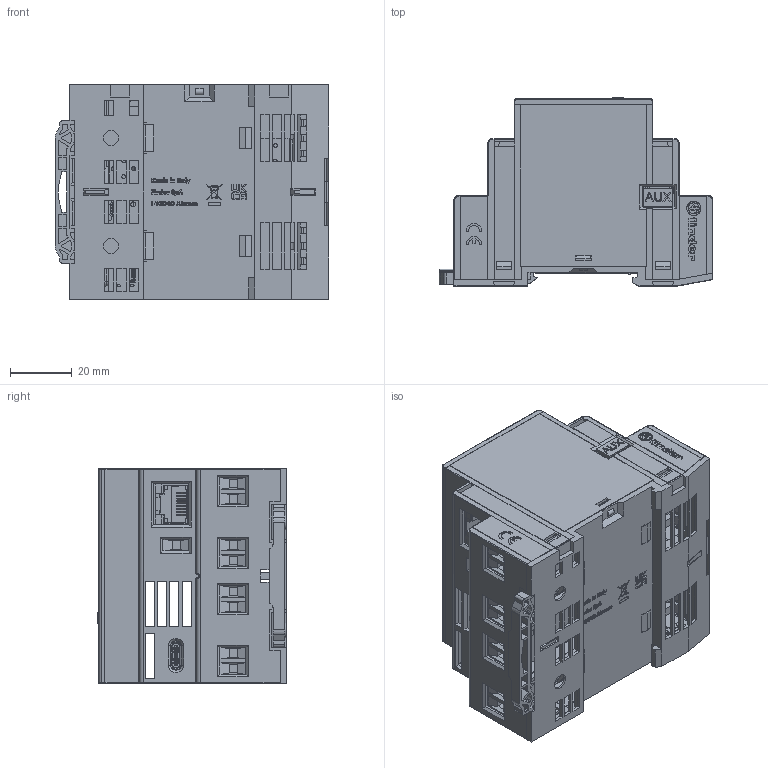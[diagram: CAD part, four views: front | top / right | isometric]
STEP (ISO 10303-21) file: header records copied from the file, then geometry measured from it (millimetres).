
FILE_DESCRIPTION(/* description */ ('Unknown'),/* implementation_level */ '2;1');
FILE_NAME(/* name */ '8A04_8310',/* time_stamp */ '2022-07-11T14:28:11+02:00',/* author */ ('Unknown'),/* organization */ ('Unknown'),/* preprocessor_version */ 'ST-DEVELOPER v16.7',/* originating_system */ 'DEX',/* authorisation */ $);
FILE_SCHEMA (('AUTOMOTIVE_DESIGN {1 0 10303 214 3 1 1}'));
Products named in the file (1): 8A04_8310
Bounding box: 88.85 x 61.15 x 70 mm (x, y, z)
Surface area: 57948.6 mm2 (no closed solid volume)
Topology: 0 solids, 195 shells, 4006 faces, 13237 edges, 9482 vertices
Faces by surface type: plane 3372, cylinder 445, bspline 111, cone 39, torus 39
Full cylindrical faces by diameter (mm): 0.374 x2, 0.407 x1, 2.2 x1, 2.6 x29, 2.85 x29, 3 x4, 3.8 x29, 4 x1, 4.5 x1, 5 x2
Entity records: 152254 total; most frequent: CARTESIAN_POINT 31604, ORIENTED_EDGE 21996, DIRECTION 21972, EDGE_CURVE 13000, LINE 11184, VECTOR 11184, VERTEX_POINT 9388, AXIS2_PLACEMENT_3D 5394
